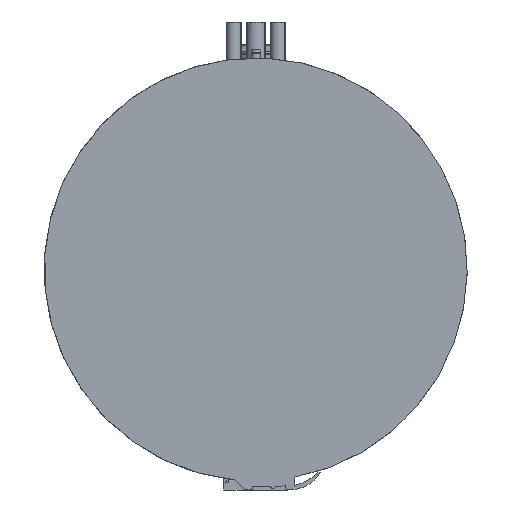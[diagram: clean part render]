
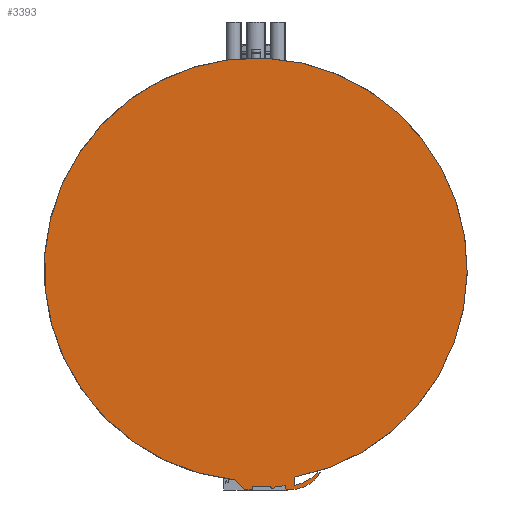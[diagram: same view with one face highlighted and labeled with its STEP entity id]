
A CAD part, front view. The second image highlights one B-rep face of the part: STEP entity #3393.
In plain terms, the highlighted planar face has unit normal (0, -1, 0).
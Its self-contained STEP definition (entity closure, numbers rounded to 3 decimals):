
#317=FACE_OUTER_BOUND('',#510,.T.);
#510=EDGE_LOOP('',(#2862,#2863,#2864,#2865,#2866,#2867,#2868,#2869,#2870,
#2871,#2872,#2873));
#576=LINE('',#4949,#823);
#579=LINE('',#4958,#826);
#581=LINE('',#4962,#828);
#583=LINE('',#4966,#830);
#586=LINE('',#4972,#833);
#593=LINE('',#4987,#840);
#596=LINE('',#4994,#843);
#823=VECTOR('',#3930,10.);
#826=VECTOR('',#3941,10.);
#828=VECTOR('',#3945,10.);
#830=VECTOR('',#3949,10.);
#833=VECTOR('',#3954,10.);
#840=VECTOR('',#3971,10.);
#843=VECTOR('',#3980,10.);
#1064=CIRCLE('',#3475,70.878);
#1065=CIRCLE('',#3478,311.5);
#1067=CIRCLE('',#3485,4.5);
#1068=CIRCLE('',#3487,29.363);
#1069=CIRCLE('',#3490,47.742);
#1293=VERTEX_POINT('',#4942);
#1294=VERTEX_POINT('',#4943);
#1295=VERTEX_POINT('',#4948);
#1296=VERTEX_POINT('',#4952);
#1297=VERTEX_POINT('',#4957);
#1298=VERTEX_POINT('',#4961);
#1299=VERTEX_POINT('',#4965);
#1301=VERTEX_POINT('',#4971);
#1302=VERTEX_POINT('',#4978);
#1303=VERTEX_POINT('',#4982);
#1304=VERTEX_POINT('',#4986);
#1305=VERTEX_POINT('',#4990);
#1612=EDGE_CURVE('',#1293,#1294,#1064,.T.);
#1615=EDGE_CURVE('',#1295,#1293,#576,.T.);
#1617=EDGE_CURVE('',#1296,#1295,#1065,.T.);
#1620=EDGE_CURVE('',#1297,#1296,#579,.T.);
#1622=EDGE_CURVE('',#1298,#1297,#581,.T.);
#1624=EDGE_CURVE('',#1299,#1298,#583,.T.);
#1627=EDGE_CURVE('',#1301,#1299,#586,.T.);
#1632=EDGE_CURVE('',#1302,#1301,#1067,.T.);
#1634=EDGE_CURVE('',#1303,#1302,#1068,.T.);
#1636=EDGE_CURVE('',#1304,#1303,#593,.T.);
#1638=EDGE_CURVE('',#1305,#1304,#1069,.T.);
#1640=EDGE_CURVE('',#1294,#1305,#596,.T.);
#2862=ORIENTED_EDGE('',*,*,#1640,.F.);
#2863=ORIENTED_EDGE('',*,*,#1612,.F.);
#2864=ORIENTED_EDGE('',*,*,#1615,.F.);
#2865=ORIENTED_EDGE('',*,*,#1617,.F.);
#2866=ORIENTED_EDGE('',*,*,#1620,.F.);
#2867=ORIENTED_EDGE('',*,*,#1622,.F.);
#2868=ORIENTED_EDGE('',*,*,#1624,.F.);
#2869=ORIENTED_EDGE('',*,*,#1627,.F.);
#2870=ORIENTED_EDGE('',*,*,#1632,.F.);
#2871=ORIENTED_EDGE('',*,*,#1634,.F.);
#2872=ORIENTED_EDGE('',*,*,#1636,.F.);
#2873=ORIENTED_EDGE('',*,*,#1638,.F.);
#3053=PLANE('',#3757);
#3393=ADVANCED_FACE('',(#317),#3053,.F.);
#3475=AXIS2_PLACEMENT_3D('',#4944,#3924,#3925);
#3478=AXIS2_PLACEMENT_3D('',#4953,#3934,#3935);
#3485=AXIS2_PLACEMENT_3D('',#4979,#3961,#3962);
#3487=AXIS2_PLACEMENT_3D('',#4983,#3966,#3967);
#3490=AXIS2_PLACEMENT_3D('',#4991,#3975,#3976);
#3757=AXIS2_PLACEMENT_3D('',#6196,#4684,#4685);
#3924=DIRECTION('center_axis',(0.,-1.,0.));
#3925=DIRECTION('ref_axis',(-0.701,0.,0.713));
#3930=DIRECTION('',(0.035,0.,-0.999));
#3934=DIRECTION('center_axis',(0.,1.,0.));
#3935=DIRECTION('ref_axis',(1.,0.,0.));
#3941=DIRECTION('',(-0.737,0.,0.676));
#3945=DIRECTION('',(-1.,0.,0.016));
#3949=DIRECTION('',(-0.016,0.,-1.));
#3954=DIRECTION('',(-1.,0.,0.));
#3961=DIRECTION('center_axis',(0.,1.,0.));
#3962=DIRECTION('ref_axis',(1.,0.,0.));
#3966=DIRECTION('center_axis',(0.,1.,0.));
#3967=DIRECTION('ref_axis',(0.369,0.,-0.93));
#3971=DIRECTION('',(-0.198,0.,0.98));
#3975=DIRECTION('center_axis',(0.,1.,0.));
#3976=DIRECTION('ref_axis',(0.886,0.,-0.465));
#3980=DIRECTION('',(0.944,0.,0.33));
#4684=DIRECTION('center_axis',(0.,1.,0.));
#4685=DIRECTION('ref_axis',(0.,0.,
1.));
#4942=CARTESIAN_POINT('',(57.646,0.,-318.439));
#4943=CARTESIAN_POINT('',(90.114,0.,-300.235));
#4944=CARTESIAN_POINT('Origin',(40.434,0.,-249.683));
#4948=CARTESIAN_POINT('',(57.213,0.,-306.201));
#4949=CARTESIAN_POINT('',(57.213,0.,-306.201));
#4952=CARTESIAN_POINT('',(-31.952,0.,-309.857));
#4953=CARTESIAN_POINT('Origin',(0.,0.,
0.));
#4957=CARTESIAN_POINT('',(-16.207,0.,-324.282));
#4958=CARTESIAN_POINT('',(-16.207,0.,-324.282));
#4961=CARTESIAN_POINT('',(-5.209,0.,-324.458));
#4962=CARTESIAN_POINT('',(-5.209,0.,-324.458));
#4965=CARTESIAN_POINT('',(-5.132,0.,-319.709));
#4966=CARTESIAN_POINT('',(-5.,0.,-311.46));
#4971=CARTESIAN_POINT('',(20.75,0.,-319.709));
#4972=CARTESIAN_POINT('',(20.75,0.,-319.709));
#4978=CARTESIAN_POINT('',(29.084,0.,-319.605));
#4979=CARTESIAN_POINT('Origin',(24.896,0.,
-317.959));
#4982=CARTESIAN_POINT('',(43.218,0.,-317.722));
#4983=CARTESIAN_POINT('Origin',(32.389,0.,
-290.429));
#4986=CARTESIAN_POINT('',(44.374,0.,-323.439));
#4987=CARTESIAN_POINT('',(44.374,0.,-323.439));
#4990=CARTESIAN_POINT('',(94.834,0.,-298.586));
#4991=CARTESIAN_POINT('Origin',(52.558,0.,
-276.404));
#4994=CARTESIAN_POINT('',(90.114,0.,-300.235));
#6196=CARTESIAN_POINT('Origin',(0.,0.,
0.));
